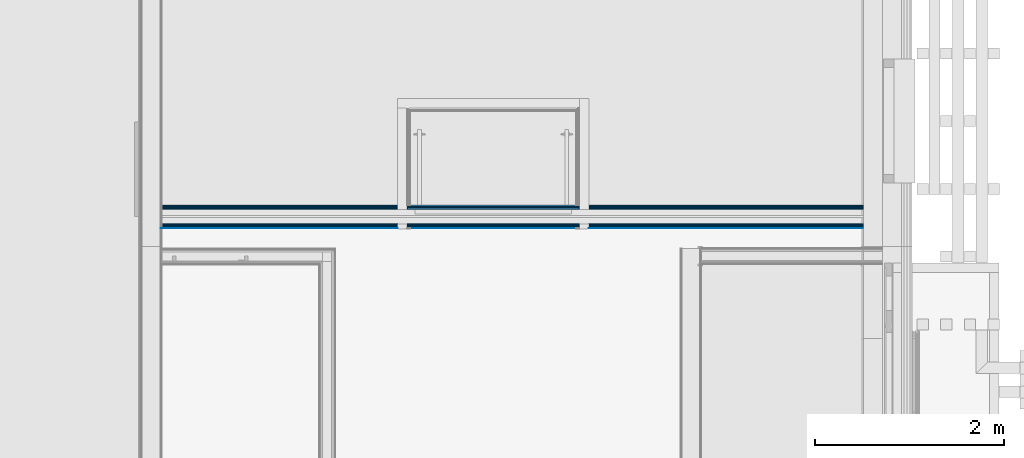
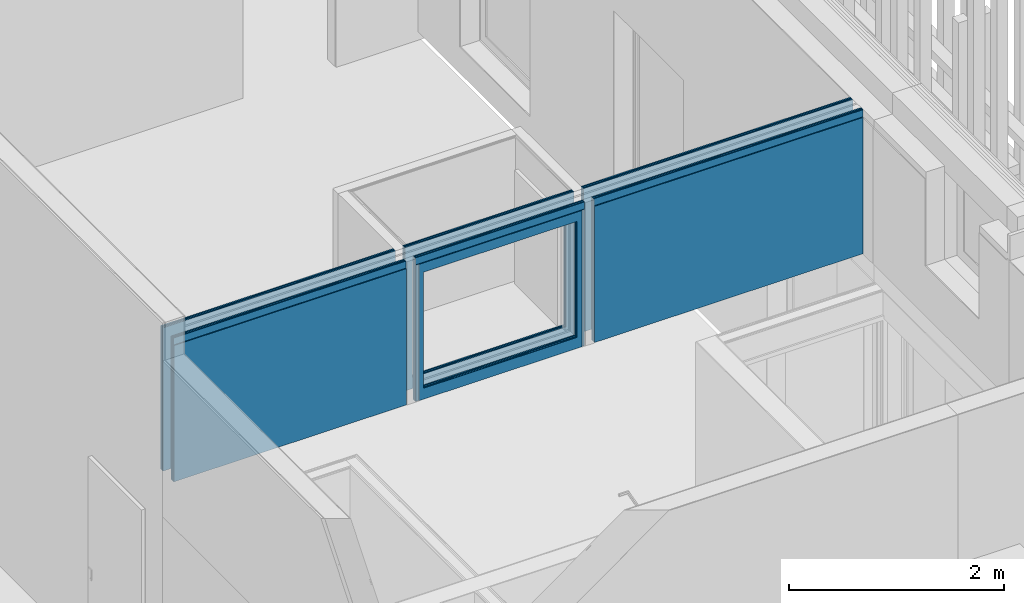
# One storey, part 180 of 260: 7 building element parts, 1 opening, 1 element without a shape of its own.
"""IFC2X3 building model written with IfcOpenShell, lengths in millimetres."""

import ifcopenshell
import ifcopenshell.guid

model = None  # the IFC model being written
_history = None  # IfcOwnerHistory: only IFC2X3 demands one
_inside = {}  # id of a spatial element -> (the spatial element, [elements in it])
_under = {}  # id of a project, library or spatial element -> (it, [spatial elements below it])
_declared = {}  # id of a project -> (the project, [libraries it declares])
_typed = {}  # id of a type object -> (the type object, [elements of that type])
_made_of = {}  # id of a material, layer set ... -> (it, [elements and type objects made of it])


def new_model(schema):
    """Start an empty IFC model of exactly this schema.

    Asked for "IFC4X3", IfcOpenShell would pick the latest addendum, in which some entities
    have other attributes; the version numbers below select the first issue.
    IFC2X3 requires an IfcOwnerHistory on every rooted entity: one is made here for all.
    """
    global model, _history
    if schema == "IFC4X3":
        model = ifcopenshell.file(schema_version=(4, 3, 0, 0))
    else:
        model = ifcopenshell.file(schema=schema)
    _inside.clear()
    _under.clear()
    _declared.clear()
    _typed.clear()
    _made_of.clear()
    _history = None
    if model.schema == "IFC2X3":
        org = make("IfcOrganization", Name="unknown")
        user = make(
            "IfcPersonAndOrganization",
            ThePerson=make("IfcPerson", FamilyName="unknown"),
            TheOrganization=org,
        )
        app = make(
            "IfcApplication",
            ApplicationDeveloper=org,
            Version="unknown",
            ApplicationFullName="unknown",
            ApplicationIdentifier="unknown",
        )
        _history = make(
            "IfcOwnerHistory",
            OwningUser=user,
            OwningApplication=app,
            ChangeAction="ADDED",
            CreationDate=0,
        )
    return model


def make(cls, **values):
    """One entity of the class cls with the attributes given. An attribute that is None is left unset."""
    return model.create_entity(
        cls, **{name: value for name, value in values.items() if value is not None}
    )


def entity(cls, *values):
    """Any entity or typed value of the class cls, its attributes in the order of the schema. None: left unset."""
    e = model.create_entity(cls)
    for i, value in enumerate(values):
        if value is not None:
            e[i] = value
    return e


def rooted(cls, **values):
    """An entity with a GlobalId (a new one), such as an element, a storey or a relation."""
    return make(cls, GlobalId=ifcopenshell.guid.new(), OwnerHistory=_history, **values)


def si_unit(unit_type, name, prefix=None):
    """IfcSIUnit, for example si_unit("LENGTHUNIT", "METRE", prefix="MILLI")."""
    return make("IfcSIUnit", UnitType=unit_type, Prefix=prefix, Name=name)


def converted_unit(unit_type, name, factor, base, dimensions=None, offset=None):
    """IfcConversionBasedUnit, such as the inch: factor (a typed value) times the base unit."""
    return make(
        "IfcConversionBasedUnit"
        if offset is None
        else "IfcConversionBasedUnitWithOffset",
        ConversionOffset=offset,
        Dimensions=None
        if dimensions is None
        else entity("IfcDimensionalExponents", *dimensions),
        UnitType=unit_type,
        Name=name,
        ConversionFactor=make(
            "IfcMeasureWithUnit", ValueComponent=factor, UnitComponent=base
        ),
    )


def derived_unit(unit_type, elements):
    """IfcDerivedUnit: a product of units, each with its exponent."""
    return make(
        "IfcDerivedUnit",
        Elements=[
            make("IfcDerivedUnitElement", Unit=unit, Exponent=power)
            for unit, power in elements
        ],
        UnitType=unit_type,
    )


def money_unit(currency):
    """IfcMonetaryUnit."""
    return make("IfcMonetaryUnit", Currency=currency)


def assignment(units):
    """IfcUnitAssignment: the units of a project."""
    return None if units is None else make("IfcUnitAssignment", Units=units)


def point(xyz):
    """IfcCartesianPoint."""
    return None if xyz is None else make("IfcCartesianPoint", Coordinates=xyz)


def direction(xyz):
    """IfcDirection."""
    return None if xyz is None else make("IfcDirection", DirectionRatios=xyz)


def frame(location, z_axis=None, x_axis=None):
    """IfcAxis2Placement3D, a coordinate frame: its origin and axes. An axis left out is left unset."""
    return make(
        "IfcAxis2Placement3D",
        Location=point(location),
        Axis=direction(z_axis),
        RefDirection=direction(x_axis),
    )


def origin_with_axes():
    """The frame at (0, 0, 0) with the z axis (0, 0, 1) and the x axis (1, 0, 0) written out."""
    return frame((0.0, 0.0, 0.0), z_axis=(0.0, 0.0, 1.0), x_axis=(1.0, 0.0, 0.0))


def place(relative_to, where):
    """IfcLocalPlacement: puts the frame where relative to a parent placement (None: the world)."""
    return make(
        "IfcLocalPlacement", PlacementRelTo=relative_to, RelativePlacement=where
    )


def context(
    kind, dimensions, precision=None, world=None, true_north=None, identifier=None
):
    """IfcGeometricRepresentationContext, for example the 3D "Model" context."""
    return make(
        "IfcGeometricRepresentationContext",
        ContextIdentifier=identifier,
        ContextType=kind,
        CoordinateSpaceDimension=dimensions,
        Precision=precision,
        WorldCoordinateSystem=world,
        TrueNorth=true_north,
    )


def subcontext(parent, identifier, kind, view, scale=None):
    """IfcGeometricRepresentationSubContext, for example "Body" below "Model"."""
    return make(
        "IfcGeometricRepresentationSubContext",
        ContextIdentifier=identifier,
        ContextType=kind,
        ParentContext=parent,
        TargetScale=scale,
        TargetView=view,
    )


def project(units=None, contexts=None):
    """IfcProject with its units and contexts."""
    return rooted(
        "IfcProject",
        Name="project",
        RepresentationContexts=contexts,
        UnitsInContext=assignment(units),
    )


def spatial(cls, under=None, at=None, **own):
    """A site, building, storey or space (cls), placed at a placement, below another one or the project."""
    s = rooted(cls, ObjectPlacement=at, **own)
    if under is not None:
        _under.setdefault(under.id(), (under, []))[1].append(s)
    return s


def faces_of(points, faces, orient=None, outer=None):
    """IfcFace entities. A face is a list of loops; a loop is a list of indices into points, from 0.

    orient and outer hold one flag for each loop. By default every Orientation is true, the
    first loop of a face is its IfcFaceOuterBound and the others are IfcFaceBound.
    """
    made = []
    for i, loops in enumerate(faces):
        bounds = []
        for j, loop in enumerate(loops):
            is_outer = j == 0 if outer is None else outer[i][j]
            bounds.append(
                make(
                    "IfcFaceOuterBound" if is_outer else "IfcFaceBound",
                    Bound=make("IfcPolyLoop", Polygon=[points[k] for k in loop]),
                    Orientation=True if orient is None else orient[i][j],
                )
            )
        made.append(make("IfcFace", Bounds=bounds))
    return made


def faceted_brep(points, faces, orient=None, outer=None, voids=None):
    """IfcFacetedBrep: a solid bounded by flat faces; with voids (closed shells), ...WithVoids."""
    shared = [point(p) for p in points]
    hull = make("IfcClosedShell", CfsFaces=faces_of(shared, faces, orient, outer))
    if voids is None:
        return make("IfcFacetedBrep", Outer=hull)
    return make(
        "IfcFacetedBrepWithVoids",
        Outer=hull,
        Voids=[
            make(cls, CfsFaces=faces_of(shared, fs, o, b)) for cls, fs, o, b in voids
        ],
    )


def shape(context_of_items, identifier, shape_type, items):
    """IfcShapeRepresentation: the items that make up one representation, for example the "Body"."""
    return make(
        "IfcShapeRepresentation",
        ContextOfItems=context_of_items,
        RepresentationIdentifier=identifier,
        RepresentationType=shape_type,
        Items=items,
    )


def material(Name=None, Category=None):
    """IfcMaterial."""
    return make("IfcMaterial", Name=Name, Category=Category)


def made_of(thing, what):
    """Note that an element or type object is made of a material, layer set ...; save() writes the relation."""
    if what is not None:
        _made_of.setdefault(what.id(), (what, []))[1].append(thing)
    return thing


def type_object(cls, material=None, **own):
    """A type object (cls), such as IfcWallType, which elements share."""
    return made_of(rooted(cls, **own), material)


def element(
    cls,
    number,
    at=None,
    inside=None,
    cuts=None,
    type_object=None,
    material=None,
    context=None,
    identifier="Body",
    shape_type=None,
    held_by="IfcProductDefinitionShape",
    body=None,
    shapes=None,
    **own,
):
    """One element of the class cls, such as IfcWall. Its Tag is "e" and its number.

    at: its placement. inside: the storey or other place that contains it. cuts: it is an
    opening in that element (IfcRelVoidsElement). A single representation is given by context,
    identifier, shape_type and body (its items); several are given by shapes. held_by: the class
    of the entity that holds the representations. save() writes the other relations.
    """
    e = rooted(cls, Tag="e%d" % number, ObjectPlacement=at, **own)
    if body is not None:
        shapes = [shape(context, identifier, shape_type, body)]
    if shapes is not None:
        e.Representation = make(held_by, Representations=shapes)
    if inside is not None:
        _inside.setdefault(inside.id(), (inside, []))[1].append(e)
    if cuts is not None:
        rooted(
            "IfcRelVoidsElement", RelatingBuildingElement=cuts, RelatedOpeningElement=e
        )
    if type_object is not None:
        _typed.setdefault(type_object.id(), (type_object, []))[1].append(e)
    return made_of(e, material)


def aggregate(whole, parts):
    """IfcRelAggregates: a whole, such as a stair, and the parts it consists of."""
    return rooted("IfcRelAggregates", RelatingObject=whole, RelatedObjects=parts)


def save(model, path):
    """Write the relations noted so far, then the file.

    IfcRelAggregates (storeys below a building ...), IfcRelContainedInSpatialStructure (elements
    in a storey), IfcRelDefinesByType, IfcRelAssociatesMaterial and IfcRelDeclares: one each for
    every whole, place, type object, material and project.
    """
    for whole, parts in _under.values():
        aggregate(whole, parts)
    for where, things in _inside.values():
        rooted(
            "IfcRelContainedInSpatialStructure",
            RelatedElements=things,
            RelatingStructure=where,
        )
    for kind, things in _typed.values():
        rooted("IfcRelDefinesByType", RelatedObjects=things, RelatingType=kind)
    for what, things in _made_of.values():
        rooted("IfcRelAssociatesMaterial", RelatedObjects=things, RelatingMaterial=what)
    for by, libraries in _declared.values():
        rooted("IfcRelDeclares", RelatingContext=by, RelatedDefinitions=libraries)
    model.write(path)


model = new_model("IFC2X3")

# Units and contexts
model_context = context("Model", 3, precision=0.01, world=origin_with_axes(), true_north=direction((0.0, 1.0)))
body_context = subcontext(model_context, "Body", "Model", "MODEL_VIEW")
ifc_project = project(units=[si_unit("LENGTHUNIT", "METRE", prefix="MILLI"), si_unit("AREAUNIT", "SQUARE_METRE"), si_unit("VOLUMEUNIT", "CUBIC_METRE"), converted_unit("PLANEANGLEUNIT", "DEGREE", entity("IfcPlaneAngleMeasure", 0.0174532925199), si_unit("PLANEANGLEUNIT", "RADIAN"), dimensions=[0, 0, 0, 0, 0, 0, 0]), money_unit("EUR"), converted_unit("TIMEUNIT", "Year", entity("IfcTimeMeasure", 31556926.0), si_unit("TIMEUNIT", "SECOND"), dimensions=[0, 0, 1, 0, 0, 0, 0]), si_unit("MASSUNIT", "GRAM", prefix="KILO"), si_unit("THERMODYNAMICTEMPERATUREUNIT", "DEGREE_CELSIUS"), si_unit("LUMINOUSINTENSITYUNIT", "LUMEN"), si_unit("ENERGYUNIT", "JOULE", prefix="MEGA"), derived_unit("THERMALCONDUCTANCEUNIT", [(si_unit("POWERUNIT", "WATT"), 1), (si_unit("LENGTHUNIT", "METRE"), -1), (si_unit("THERMODYNAMICTEMPERATUREUNIT", "KELVIN"), -1)]), derived_unit("SPECIFICHEATCAPACITYUNIT", [(si_unit("ENERGYUNIT", "JOULE"), 1), (si_unit("MASSUNIT", "GRAM", prefix="KILO"), -1), (si_unit("THERMODYNAMICTEMPERATUREUNIT", "KELVIN"), -1)]), derived_unit("MASSDENSITYUNIT", [(si_unit("MASSUNIT", "GRAM", prefix="KILO"), 1), (si_unit("VOLUMEUNIT", "CUBIC_METRE"), -1)])], contexts=[model_context])

# Site, building, storey
site_placement = place(None, origin_with_axes())
site = spatial("IfcSite", under=ifc_project, at=site_placement, Name="Kolde pst 67a", CompositionType="ELEMENT")
building_placement = place(site_placement, origin_with_axes())
building = spatial("IfcBuilding", under=site, at=building_placement, Name="Riigigümnaasium", CompositionType="ELEMENT")
storey_placement = place(building_placement, origin_with_axes())
storey = spatial("IfcBuildingStorey", under=building, at=storey_placement, Name="1. korrus", CompositionType="ELEMENT", Elevation=0.0)

# Wall, opening, building element parts
wall_type = type_object("IfcWallType", Name="SS-MK-6,6/2_vill75+värv audika alune sein 60 dB 247", PredefinedType="NOTDEFINED")
wall_placement = place(storey_placement, frame((52819.9941096, 38961.8677168, 2600.0), z_axis=(0.0, 0.0, 1.0), x_axis=(1.0, 0.0, 0.0)))
wall = element("IfcWall", 1, at=wall_placement, inside=storey, type_object=wall_type, Name="Sisesein")
opening_placement = place(wall_placement, frame((3510.86900625, 0.0, 124.999996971), z_axis=(0.0, 0.0, 1.0), x_axis=(1.0, 0.0, 0.0)))
element("IfcOpeningElement", 2, at=opening_placement, cuts=wall, Name="Kahepoolne siseuks", context=body_context, shape_type="Brep", body=[
    faceted_brep([(825.0, -247.0, 1320.00000303), (825.0, -247.0, 0.0), (825.0, 494.0, 0.0), (825.0, 494.0, 1320.00000303), (-825.0, -247.0, 1320.00000303), (-825.0, -247.0, 0.0), (-825.0, 494.0, 0.0), (-825.0, 494.0, 1320.00000303)], [[[0, 1, 2, 3]], [[0, 4, 5, 1]], [[1, 5, 6, 2]], [[3, 2, 6, 7]], [[4, 0, 3, 7]], [[5, 4, 7, 6]]]),
])
ifc_material_1 = material(Name="_PLAATMATERJAL - tuletõkkekipsplaat, Knauf Red GKF või samaväärne")
building_element_part_1_placement = place(wall_placement, origin_with_axes())
building_element_part_1 = element("IfcBuildingElementPart", 3, at=building_element_part_1_placement, material=ifc_material_1, Name="_PLAATMATERJAL - tuletõkkekipsplaat, Knauf Red GKF või samaväärne", context=body_context, shape_type="Brep", body=[
    faceted_brep([(2602.51440419, 232.0, 1630.0), (2602.51440419, 232.0, 0.0), (4422.51440419, 232.0, 0.0), (4422.51440419, 232.0, 1630.0), (2685.86900625, 232.0, 124.999996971), (2685.86900625, 232.0, 1445.0), (4335.86900625, 232.0, 1445.0), (4335.86900625, 232.0, 124.999996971), (2602.51440419, 247.0, 1630.0), (2602.51440419, 247.0, 0.0), (4422.51440419, 247.0, 0.0), (4422.51440419, 247.0, 1630.0), (2685.86900625, 247.0, 124.999996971), (2685.86900625, 247.0, 1445.0), (4335.86900625, 247.0, 1445.0), (4335.86900625, 247.0, 124.999996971)], [[[0, 1, 2, 3], [4, 5, 6, 7]], [[1, 0, 8, 9]], [[1, 9, 10, 2]], [[11, 3, 2, 10]], [[8, 0, 3, 11]], [[12, 13, 5, 4]], [[13, 14, 6, 5]], [[14, 15, 7, 6]], [[15, 12, 4, 7]], [[9, 8, 11, 10], [12, 15, 14, 13]]]),
    faceted_brep([(7420.00001256, 232.0, 0.0), (4522.51440419, 232.0, 0.0), (4522.51440419, 247.0, 0.0), (7420.00001256, 247.0, 0.0), (7420.00001256, 232.0, 1630.0), (4522.51440419, 232.0, 1630.0), (4522.51440419, 247.0, 1630.0), (7420.00001256, 247.0, 1630.0)], [[[0, 1, 2, 3]], [[4, 5, 1, 0]], [[2, 1, 5, 6]], [[3, 2, 6, 7]], [[3, 7, 4, 0]], [[7, 6, 5, 4]]]),
    faceted_brep([(2502.51440419, 232.0, 0.0), (0.0, 232.0, 0.0), (0.0, 247.0, 0.0), (2502.51440419, 247.0, 0.0), (2502.51440419, 232.0, 1630.0), (0.0, 232.0, 1630.0), (0.0, 247.0, 1630.0), (2502.51440419, 247.0, 1630.0)], [[[0, 1, 2, 3]], [[4, 5, 1, 0]], [[2, 1, 5, 6]], [[3, 2, 6, 7]], [[3, 7, 4, 0]], [[7, 6, 5, 4]]]),
])
building_element_part_2_placement = place(wall_placement, origin_with_axes())
building_element_part_2 = element("IfcBuildingElementPart", 4, at=building_element_part_2_placement, material=ifc_material_1, Name="_PLAATMATERJAL - tuletõkkekipsplaat, Knauf Red GKF või samaväärne", context=body_context, shape_type="Brep", body=[
    faceted_brep([(2602.51440419, 217.0, 1630.0), (2602.51440419, 217.0, 0.0), (4422.51440419, 217.0, 0.0), (4422.51440419, 217.0, 1630.0), (2685.86900625, 217.0, 124.999996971), (2685.86900625, 217.0, 1445.0), (4335.86900625, 217.0, 1445.0), (4335.86900625, 217.0, 124.999996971), (2602.51440419, 232.0, 1630.0), (2602.51440419, 232.0, 0.0), (4422.51440419, 232.0, 0.0), (4422.51440419, 232.0, 1630.0), (2685.86900625, 232.0, 124.999996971), (2685.86900625, 232.0, 1445.0), (4335.86900625, 232.0, 1445.0), (4335.86900625, 232.0, 124.999996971)], [[[0, 1, 2, 3], [4, 5, 6, 7]], [[1, 0, 8, 9]], [[1, 9, 10, 2]], [[11, 3, 2, 10]], [[8, 0, 3, 11]], [[12, 13, 5, 4]], [[13, 14, 6, 5]], [[14, 15, 7, 6]], [[15, 12, 4, 7]], [[9, 8, 11, 10], [12, 15, 14, 13]]]),
    faceted_brep([(7420.00001256, 217.0, 0.0), (4522.51440419, 217.0, 0.0), (4522.51440419, 232.0, 0.0), (7420.00001256, 232.0, 0.0), (7420.00001256, 217.0, 1630.0), (4522.51440419, 217.0, 1630.0), (4522.51440419, 232.0, 1630.0), (7420.00001256, 232.0, 1630.0)], [[[0, 1, 2, 3]], [[4, 5, 1, 0]], [[2, 1, 5, 6]], [[3, 2, 6, 7]], [[3, 7, 4, 0]], [[7, 6, 5, 4]]]),
    faceted_brep([(2502.51440419, 217.0, 0.0), (0.0, 217.0, 0.0), (0.0, 232.0, 0.0), (2502.51440419, 232.0, 0.0), (2502.51440419, 217.0, 1630.0), (0.0, 217.0, 1630.0), (0.0, 232.0, 1630.0), (2502.51440419, 232.0, 1630.0)], [[[0, 1, 2, 3]], [[4, 5, 1, 0]], [[2, 1, 5, 6]], [[3, 2, 6, 7]], [[3, 7, 4, 0]], [[7, 6, 5, 4]]]),
])
building_element_part_3_placement = place(wall_placement, origin_with_axes())
building_element_part_3 = element("IfcBuildingElementPart", 5, at=building_element_part_3_placement, material=ifc_material_1, Name="_PLAATMATERJAL - tuletõkkekipsplaat, Knauf Red GKF või samaväärne", context=body_context, shape_type="Brep", body=[
    faceted_brep([(2602.51440419, 202.0, 1630.0), (2602.51440419, 202.0, 0.0), (4422.51440419, 202.0, 0.0), (4422.51440419, 202.0, 1630.0), (2685.86900625, 202.0, 124.999996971), (2685.86900625, 202.0, 1445.0), (4335.86900625, 202.0, 1445.0), (4335.86900625, 202.0, 124.999996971), (2602.51440419, 217.0, 1630.0), (2602.51440419, 217.0, 0.0), (4422.51440419, 217.0, 0.0), (4422.51440419, 217.0, 1630.0), (2685.86900625, 217.0, 124.999996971), (2685.86900625, 217.0, 1445.0), (4335.86900625, 217.0, 1445.0), (4335.86900625, 217.0, 124.999996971)], [[[0, 1, 2, 3], [4, 5, 6, 7]], [[1, 0, 8, 9]], [[1, 9, 10, 2]], [[11, 3, 2, 10]], [[8, 0, 3, 11]], [[12, 13, 5, 4]], [[13, 14, 6, 5]], [[14, 15, 7, 6]], [[15, 12, 4, 7]], [[9, 8, 11, 10], [12, 15, 14, 13]]]),
    faceted_brep([(7420.00001256, 202.0, 0.0), (4522.51440419, 202.0, 0.0), (4522.51440419, 217.0, 0.0), (7420.00001256, 217.0, 0.0), (7420.00001256, 202.0, 1630.0), (4522.51440419, 202.0, 1630.0), (4522.51440419, 217.0, 1630.0), (7420.00001256, 217.0, 1630.0)], [[[0, 1, 2, 3]], [[4, 5, 1, 0]], [[2, 1, 5, 6]], [[3, 2, 6, 7]], [[3, 7, 4, 0]], [[7, 6, 5, 4]]]),
    faceted_brep([(2502.51440419, 202.0, 0.0), (0.0, 202.0, 0.0), (0.0, 217.0, 0.0), (2502.51440419, 217.0, 0.0), (2502.51440419, 202.0, 1630.0), (0.0, 202.0, 1630.0), (0.0, 217.0, 1630.0), (2502.51440419, 217.0, 1630.0)], [[[0, 1, 2, 3]], [[4, 5, 1, 0]], [[2, 1, 5, 6]], [[3, 2, 6, 7]], [[3, 7, 4, 0]], [[7, 6, 5, 4]]]),
])
building_element_part_4_placement = place(wall_placement, origin_with_axes())
building_element_part_4 = element("IfcBuildingElementPart", 6, at=building_element_part_4_placement, material=ifc_material_1, Name="_PLAATMATERJAL - tuletõkkekipsplaat, Knauf Red GKF või samaväärne", context=body_context, shape_type="Brep", body=[
    faceted_brep([(2602.51440419, 35.0, 1630.0), (2602.51440419, 35.0, 0.0), (4422.51440419, 35.0, 0.0), (4422.51440419, 35.0, 1630.0), (2685.86900625, 35.0, 124.999996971), (2685.86900625, 35.0, 1445.0), (4335.86900625, 35.0, 1445.0), (4335.86900625, 35.0, 124.999996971), (2602.51440419, 50.0, 1630.0), (2602.51440419, 50.0, 0.0), (4422.51440419, 50.0, 0.0), (4422.51440419, 50.0, 1630.0), (2685.86900625, 50.0, 124.999996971), (2685.86900625, 50.0, 1445.0), (4335.86900625, 50.0, 1445.0), (4335.86900625, 50.0, 124.999996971)], [[[0, 1, 2, 3], [4, 5, 6, 7]], [[1, 0, 8, 9]], [[1, 9, 10, 2]], [[11, 3, 2, 10]], [[8, 0, 3, 11]], [[12, 13, 5, 4]], [[13, 14, 6, 5]], [[14, 15, 7, 6]], [[15, 12, 4, 7]], [[9, 8, 11, 10], [12, 15, 14, 13]]]),
    faceted_brep([(7420.00001256, 35.0, 0.0), (4522.51440419, 35.0, 0.0), (4522.51440419, 50.0, 0.0), (7420.00001256, 50.0, 0.0), (7420.00001256, 35.0, 1630.0), (4522.51440419, 35.0, 1630.0), (4522.51440419, 50.0, 1630.0), (7420.00001256, 50.0, 1630.0)], [[[0, 1, 2, 3]], [[4, 5, 1, 0]], [[2, 1, 5, 6]], [[3, 2, 6, 7]], [[3, 7, 4, 0]], [[7, 6, 5, 4]]]),
    faceted_brep([(2502.51440419, 35.0, 0.0), (0.0, 35.0, 0.0), (0.0, 50.0, 0.0), (2502.51440419, 50.0, 0.0), (2502.51440419, 35.0, 1630.0), (0.0, 35.0, 1630.0), (0.0, 50.0, 1630.0), (2502.51440419, 50.0, 1630.0)], [[[0, 1, 2, 3]], [[4, 5, 1, 0]], [[2, 1, 5, 6]], [[3, 2, 6, 7]], [[3, 7, 4, 0]], [[7, 6, 5, 4]]]),
])
building_element_part_5_placement = place(wall_placement, origin_with_axes())
building_element_part_5 = element("IfcBuildingElementPart", 7, at=building_element_part_5_placement, material=ifc_material_1, Name="_PLAATMATERJAL - tuletõkkekipsplaat, Knauf Red GKF või samaväärne", context=body_context, shape_type="Brep", body=[
    faceted_brep([(2602.51440419, 20.0, 1630.0), (2602.51440419, 20.0, 0.0), (4422.51440419, 20.0, 0.0), (4422.51440419, 20.0, 1630.0), (2685.86900625, 20.0, 124.999996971), (2685.86900625, 20.0, 1445.0), (4335.86900625, 20.0, 1445.0), (4335.86900625, 20.0, 124.999996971), (2602.51440419, 35.0, 1630.0), (2602.51440419, 35.0, 0.0), (4422.51440419, 35.0, 0.0), (4422.51440419, 35.0, 1630.0), (2685.86900625, 35.0, 124.999996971), (2685.86900625, 35.0, 1445.0), (4335.86900625, 35.0, 1445.0), (4335.86900625, 35.0, 124.999996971)], [[[0, 1, 2, 3], [4, 5, 6, 7]], [[1, 0, 8, 9]], [[1, 9, 10, 2]], [[11, 3, 2, 10]], [[8, 0, 3, 11]], [[12, 13, 5, 4]], [[13, 14, 6, 5]], [[14, 15, 7, 6]], [[15, 12, 4, 7]], [[9, 8, 11, 10], [12, 15, 14, 13]]]),
    faceted_brep([(7420.00001256, 20.0, 0.0), (4522.51440419, 20.0, 0.0), (4522.51440419, 35.0, 0.0), (7420.00001256, 35.0, 0.0), (7420.00001256, 20.0, 1630.0), (4522.51440419, 20.0, 1630.0), (4522.51440419, 35.0, 1630.0), (7420.00001256, 35.0, 1630.0)], [[[0, 1, 2, 3]], [[4, 5, 1, 0]], [[2, 1, 5, 6]], [[3, 2, 6, 7]], [[3, 7, 4, 0]], [[7, 6, 5, 4]]]),
    faceted_brep([(2502.51440419, 20.0, 0.0), (0.0, 20.0, 0.0), (0.0, 35.0, 0.0), (2502.51440419, 35.0, 0.0), (2502.51440419, 20.0, 1630.0), (0.0, 20.0, 1630.0), (0.0, 35.0, 1630.0), (2502.51440419, 35.0, 1630.0)], [[[0, 1, 2, 3]], [[4, 5, 1, 0]], [[2, 1, 5, 6]], [[3, 2, 6, 7]], [[3, 7, 4, 0]], [[7, 6, 5, 4]]]),
])
building_element_part_6_placement = place(wall_placement, origin_with_axes())
building_element_part_6 = element("IfcBuildingElementPart", 8, at=building_element_part_6_placement, material=ifc_material_1, Name="_PLAATMATERJAL - tuletõkkekipsplaat, Knauf Red GKF või samaväärne", context=body_context, shape_type="Brep", body=[
    faceted_brep([(2602.51440419, 5.0, 1550.0), (2602.51440419, 5.0, 0.0), (4422.51440419, 5.0, 0.0), (4422.51440419, 5.0, 1550.0), (2685.86900625, 5.0, 124.999996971), (2685.86900625, 5.0, 1445.0), (4335.86900625, 5.0, 1445.0), (4335.86900625, 5.0, 124.999996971), (2602.51440419, 20.0, 0.0), (2602.51440419, 10.0000443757, 1550.0), (2602.51440419, 10.0000443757, 1630.0), (2602.51440419, 20.0, 1630.0), (4422.51440419, 20.0, 0.0), (4422.51440419, 20.0, 1630.0), (4422.51440419, 10.0000443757, 1630.0), (4422.51440419, 10.0000443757, 1550.0), (2685.86900625, 20.0, 124.999996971), (2685.86900625, 20.0, 1445.0), (4335.86900625, 20.0, 1445.0), (4335.86900625, 20.0, 124.999996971)], [[[0, 1, 2, 3], [4, 5, 6, 7]], [[8, 1, 0, 9, 10, 11]], [[2, 1, 8, 12]], [[12, 13, 14, 15, 3, 2]], [[15, 9, 0, 3]], [[16, 17, 5, 4]], [[17, 18, 6, 5]], [[18, 19, 7, 6]], [[19, 16, 4, 7]], [[9, 15, 14, 10]], [[14, 13, 11, 10]], [[12, 8, 11, 13], [16, 19, 18, 17]]]),
    faceted_brep([(4522.51440419, 10.0000443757, 1630.0), (4522.51440419, 10.0000443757, 1550.0), (7420.00001256, 10.0000443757, 1550.0), (7420.00001256, 10.0000443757, 1630.0), (4522.51440419, 20.0, 1630.0), (4522.51440419, 20.0, 0.0), (4522.51440419, 5.0, 0.0), (4522.51440419, 5.0, 1550.0), (7420.00001256, 5.0, 1550.0), (7420.00001256, 5.0, 0.0), (7420.00001256, 20.0, 0.0), (7420.00001256, 20.0, 1630.0)], [[[0, 1, 2, 3]], [[1, 0, 4, 5, 6, 7]], [[8, 2, 1, 7]], [[2, 8, 9, 10, 11, 3]], [[0, 3, 11, 4]], [[11, 10, 5, 4]], [[10, 9, 6, 5]], [[8, 7, 6, 9]]]),
    faceted_brep([(0.0, 10.0000443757, 1630.0), (0.0, 10.0000443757, 1550.0), (2502.51440419, 10.0000443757, 1550.0), (2502.51440419, 10.0000443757, 1630.0), (0.0, 20.0, 1630.0), (0.0, 20.0, 0.0), (0.0, 5.0, 0.0), (0.0, 5.0, 1550.0), (2502.51440419, 5.0, 1550.0), (2502.51440419, 5.0, 0.0), (2502.51440419, 20.0, 0.0), (2502.51440419, 20.0, 1630.0)], [[[0, 1, 2, 3]], [[1, 0, 4, 5, 6, 7]], [[8, 2, 1, 7]], [[2, 8, 9, 10, 11, 3]], [[0, 3, 11, 4]], [[11, 10, 5, 4]], [[10, 9, 6, 5]], [[8, 7, 6, 9]]]),
])
ifc_material_2 = material(Name="_VIIMISTLUSKIHT - viimistlus vastavalt SA osale")
building_element_part_7_placement = place(wall_placement, origin_with_axes())
building_element_part_7 = element("IfcBuildingElementPart", 9, at=building_element_part_7_placement, material=ifc_material_2, Name="_VIIMISTLUSKIHT - viimistlus vastavalt SA osale", context=body_context, shape_type="Brep", body=[
    faceted_brep([(2637.51440419, 0.0, 1550.0), (2637.51440419, 0.0, 0.0), (4387.51440419, 0.0, 0.0), (4387.51440419, 0.0, 1550.0), (2685.86900625, 0.0, 124.999996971), (2685.86900625, 0.0, 1445.0), (4335.86900625, 0.0, 1445.0), (4335.86900625, 0.0, 124.999996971), (2637.51440419, 5.0, 1550.0), (2637.51440419, 5.0, 0.0), (4387.51440419, 5.0, 0.0), (4387.51440419, 5.0, 1550.0), (2685.86900625, 5.0, 124.999996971), (2685.86900625, 5.0, 1445.0), (4335.86900625, 5.0, 1445.0), (4335.86900625, 5.0, 124.999996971)], [[[0, 1, 2, 3], [4, 5, 6, 7]], [[8, 9, 1, 0]], [[2, 1, 9, 10]], [[3, 2, 10, 11]], [[11, 8, 0, 3]], [[12, 13, 5, 4]], [[13, 14, 6, 5]], [[14, 15, 7, 6]], [[15, 12, 4, 7]], [[11, 10, 9, 8], [12, 15, 14, 13]]]),
    faceted_brep([(4522.51440419, 5.0, 1550.0), (7410.00001256, 5.0, 1550.0), (7410.00001256, 5.0, 0.0), (4522.51440419, 5.0, 0.0), (7410.00001256, 0.0, 1550.0), (4522.51440419, 0.0, 1550.0), (7410.00001256, 0.0, 0.0), (4522.51440419, 0.0, 0.0)], [[[0, 1, 2, 3]], [[4, 1, 0, 5]], [[1, 4, 6, 2]], [[2, 6, 7, 3]], [[5, 0, 3, 7]], [[4, 5, 7, 6]]]),
    faceted_brep([(0.0, 5.0, 1550.0), (2502.51440419, 5.0, 1550.0), (2502.51440419, 5.0, 0.0), (0.0, 5.0, 0.0), (2502.51440419, 0.0, 1550.0), (0.0, 0.0, 1550.0), (2502.51440419, 0.0, 0.0), (0.0, 0.0, 0.0)], [[[0, 1, 2, 3]], [[4, 1, 0, 5]], [[1, 4, 6, 2]], [[2, 6, 7, 3]], [[5, 0, 3, 7]], [[4, 5, 7, 6]]]),
])
aggregate(wall, [building_element_part_1, building_element_part_2, building_element_part_3, building_element_part_4, building_element_part_5, building_element_part_6, building_element_part_7])

save(model, "model.ifc")
